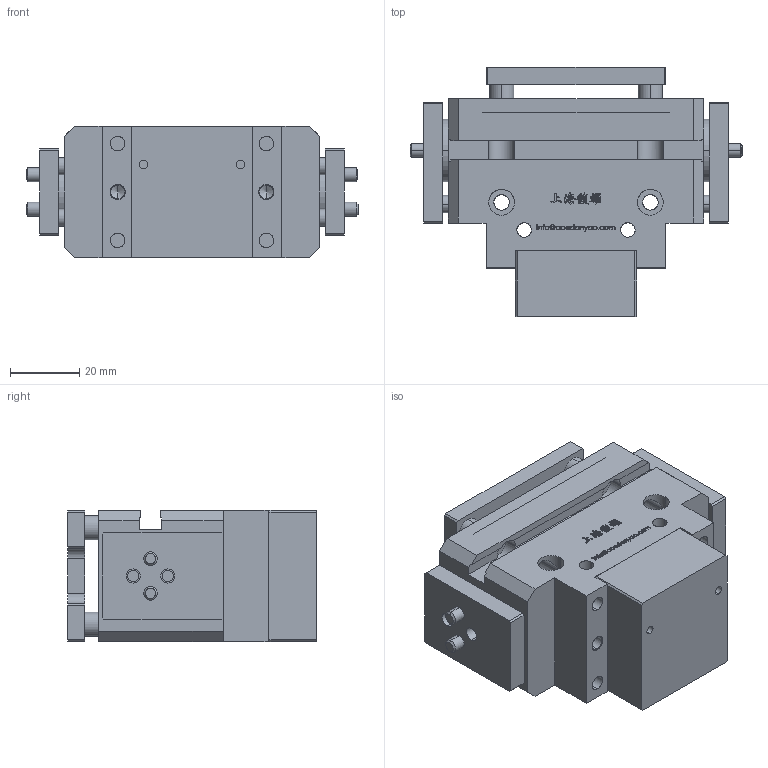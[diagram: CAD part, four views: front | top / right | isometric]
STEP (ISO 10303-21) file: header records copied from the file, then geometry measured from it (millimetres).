
FILE_DESCRIPTION (( 'STEP AP203' ), '1' );
FILE_NAME ('SRO-64-P-MA&MC-原始檔-組合-W106.04.20.STEP', '2017-04-20T07:58:22', ( 'DanyaoCAD' ), ( '' ), 'SwSTEP 2.0', 'SolidWorks 2016', '' );
FILE_SCHEMA (( 'CONFIG_CONTROL_DESIGN' ));
Length unit declared in the file: millimetre
Products named in the file (5): Griffa; Fondello; Corpo; Piattello; SRO-64-P-MA&MC-原始檔-組合-W106.04.20
Assembly tree (5 placements, depth 2):
  SRO-64-P-MA&MC-原始檔-組合-W106.04.20
    Griffa  x2
    Fondello
    Corpo
    Piattello
Bounding box: 96 x 72 x 38 mm (x, y, z)
Volume: 151929.2 mm3; surface area: 47958.6 mm2
Topology: 5 solids, 5 shells, 1054 faces, 2882 edges, 1904 vertices
Faces by surface type: bspline 640, plane 278, cylinder 112, cone 24
Entity records: 52609 total; most frequent: CARTESIAN_POINT 30809, ORIENTED_EDGE 5576, EDGE_CURVE 2788, DIRECTION 2240, VERTEX_POINT 1848, B_SPLINE_CURVE_WITH_KNOTS 1402, VECTOR 1294, LINE 1294
